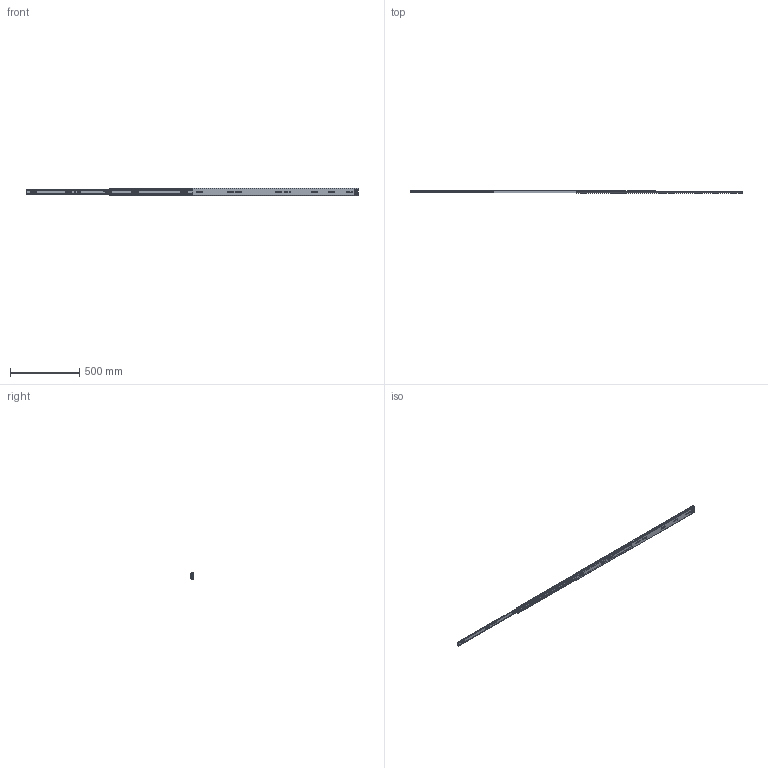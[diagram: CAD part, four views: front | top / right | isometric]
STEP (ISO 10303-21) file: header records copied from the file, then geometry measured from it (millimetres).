
FILE_DESCRIPTION((''),'2;1');
FILE_NAME('1057-02-48_ASM','2023-12-22T',('jishu015'),(''),'PRO/ENGINEER BY PARAMETRIC TECHNOLOGY CORPORATION, 2010280','PRO/ENGINEER BY PARAMETRIC TECHNOLOGY CORPORATION, 2010280','');
FILE_SCHEMA(('CONFIG_CONTROL_DESIGN'));
Products named in the file (14): KP-57-01WEIKE-122; 1057WEIJIAO________________; 1057DAZHUJIA-14GE11_; 1057-5-6GANZHU________________; 1057DAZHUJIA-14GE11__ASM; KP-57-01ZHONGGUI-22___; 57-ZHONGGUIDINWEIJIAN11_____; KP-57-01ZHONGGUI-22____ASM; 1057XIAOZHUJIA________________; 1057XIAOZHUJIA-14GE22____ASM; KP-57-01NEIGUI-1822_; 45TIEBACHA________________; KP-57-01NEIGUI-1822__ASM; 1057-02-48_ASM
Assembly tree (192 placements, depth 3):
  1057-02-48_ASM
    KP-57-01WEIKE-122
    1057WEIJIAO________________
    1057DAZHUJIA-14GE11__ASM
      1057DAZHUJIA-14GE11_
      1057-5-6GANZHU________________  x88
    KP-57-01ZHONGGUI-22____ASM
      KP-57-01ZHONGGUI-22___
      57-ZHONGGUIDINWEIJIAN11_____
    1057XIAOZHUJIA-14GE22____ASM
      1057XIAOZHUJIA________________
      1057-5-6GANZHU________________  x92
    KP-57-01NEIGUI-1822__ASM
      KP-57-01NEIGUI-1822_
      45TIEBACHA________________
Bounding box: 2400 x 19 x 57.7 mm (x, y, z)
Volume: 526004.9 mm3; surface area: 618785.9 mm2
Topology: 188 solids, 190 shells, 4707 faces, 13242 edges, 8184 vertices
Faces by surface type: plane 2159, cylinder 1948, sphere 368, cone 130, bspline 96, torus 6
Entity records: 146768 total; most frequent: CARTESIAN_POINT 29788, DIRECTION 24858, ORIENTED_EDGE 24308, EDGE_CURVE 12156, AXIS2_PLACEMENT_3D 8523, VERTEX_POINT 7826, VECTOR 7812, LINE 7812
